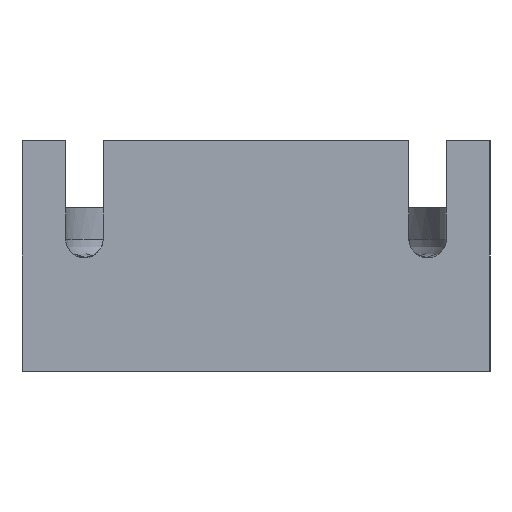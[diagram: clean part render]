
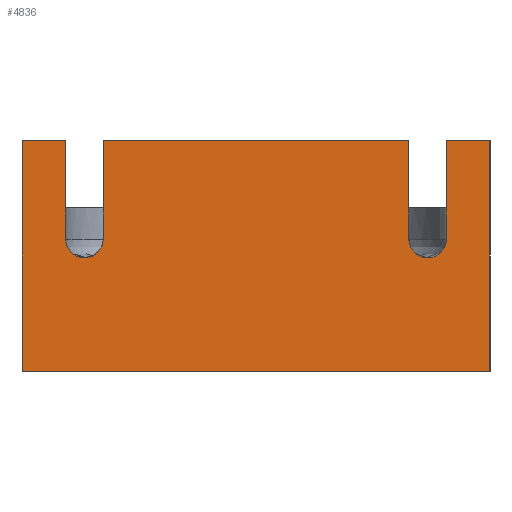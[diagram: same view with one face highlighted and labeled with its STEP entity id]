
A CAD part, left-side view. The second image highlights one B-rep face of the part: STEP entity #4836.
In plain terms, the highlighted planar face has unit normal (-1, 0, 0).
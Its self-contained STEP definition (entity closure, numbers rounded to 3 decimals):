
#253=PLANE('',#5168);
#530=FACE_OUTER_BOUND('',#812,.T.);
#812=EDGE_LOOP('',(#4475,#4476,#4477,#4478,#4479,#4480,#4481,#4482,#4483,
#4484,#4485,#4486));
#814=B_SPLINE_CURVE_WITH_KNOTS('',3,(#6275,#6276,#6277,#6278,#6279,#6280,
#6281,#6282,#6283,#6284,#6285,#6286,#6287,#6288,#6289,#6290,#6291,#6292,
#6293,#6294,#6295,#6296,#6297,#6298,#6299,#6300,#6301,#6302),
 .UNSPECIFIED.,.F.,.F.,(4,3,3,3,3,3,3,3,3,4),(-0.945,-0.883,
-0.82,-0.703,-0.586,-0.469,
-0.352,-0.234,-0.117,0.),
 .UNSPECIFIED.);
#1003=LINE('',#6310,#1419);
#1006=LINE('',#6316,#1422);
#1012=LINE('',#6329,#1428);
#1018=LINE('',#6356,#1434);
#1019=LINE('',#6359,#1435);
#1026=LINE('',#6372,#1442);
#1406=LINE('',#10257,#1822);
#1410=LINE('',#10266,#1826);
#1413=LINE('',#10271,#1829);
#1414=LINE('',#10273,#1830);
#1419=VECTOR('',#5183,10.);
#1422=VECTOR('',#5188,10.);
#1428=VECTOR('',#5196,10.);
#1434=VECTOR('',#5208,10.);
#1435=VECTOR('',#5211,10.);
#1442=VECTOR('',#5220,10.);
#1822=VECTOR('',#6206,10.);
#1826=VECTOR('',#6212,10.);
#1829=VECTOR('',#6219,10.);
#1830=VECTOR('',#6222,10.);
#1832=CIRCLE('',#4858,3.);
#1919=VERTEX_POINT('',#6272);
#1920=VERTEX_POINT('',#6274);
#1923=VERTEX_POINT('',#6308);
#1925=VERTEX_POINT('',#6315);
#1930=VERTEX_POINT('',#6326);
#1931=VERTEX_POINT('',#6328);
#1933=VERTEX_POINT('',#6346);
#1936=VERTEX_POINT('',#6354);
#1937=VERTEX_POINT('',#6358);
#2353=VERTEX_POINT('',#10255);
#2354=VERTEX_POINT('',#10259);
#2357=VERTEX_POINT('',#10264);
#2360=EDGE_CURVE('',#1920,#1919,#814,.T.);
#2364=EDGE_CURVE('',#1919,#1923,#1003,.T.);
#2367=EDGE_CURVE('',#1925,#1920,#1006,.T.);
#2373=EDGE_CURVE('',#1931,#1930,#1012,.T.);
#2377=EDGE_CURVE('',#1930,#1933,#1832,.T.);
#2381=EDGE_CURVE('',#1933,#1936,#1018,.T.);
#2382=EDGE_CURVE('',#1931,#1937,#1019,.T.);
#2389=EDGE_CURVE('',#1925,#1936,#1026,.T.);
#3060=EDGE_CURVE('',#2353,#1923,#1406,.T.);
#3064=EDGE_CURVE('',#2357,#2354,#1410,.T.);
#3067=EDGE_CURVE('',#1937,#2357,#1413,.T.);
#3068=EDGE_CURVE('',#2353,#2354,#1414,.T.);
#4475=ORIENTED_EDGE('',*,*,#2364,.T.);
#4476=ORIENTED_EDGE('',*,*,#3060,.F.);
#4477=ORIENTED_EDGE('',*,*,#3068,.T.);
#4478=ORIENTED_EDGE('',*,*,#3064,.F.);
#4479=ORIENTED_EDGE('',*,*,#3067,.F.);
#4480=ORIENTED_EDGE('',*,*,#2382,.F.);
#4481=ORIENTED_EDGE('',*,*,#2373,.T.);
#4482=ORIENTED_EDGE('',*,*,#2377,.T.);
#4483=ORIENTED_EDGE('',*,*,#2381,.T.);
#4484=ORIENTED_EDGE('',*,*,#2389,.F.);
#4485=ORIENTED_EDGE('',*,*,#2367,.T.);
#4486=ORIENTED_EDGE('',*,*,#2360,.T.);
#4836=ADVANCED_FACE('',(#530),#253,.F.);
#4858=AXIS2_PLACEMENT_3D('',#6348,#5201,#5202);
#5168=AXIS2_PLACEMENT_3D('',#10272,#6220,#6221);
#5183=DIRECTION('',(0.,0.,1.));
#5188=DIRECTION('',(0.,0.,-1.));
#5196=DIRECTION('',(0.,0.,-1.));
#5201=DIRECTION('center_axis',(1.,0.,0.));
#5202=DIRECTION('ref_axis',(0.,1.,0.));
#5208=DIRECTION('',(0.,0.,1.));
#5211=DIRECTION('',(0.,-1.,0.));
#5220=DIRECTION('',(0.,-1.,0.));
#6206=DIRECTION('',(0.,-1.,0.));
#6212=DIRECTION('',(0.,1.,0.));
#6219=DIRECTION('',(0.,0.,-1.));
#6220=DIRECTION('center_axis',(1.,0.,0.));
#6221=DIRECTION('ref_axis',(0.,0.,-1.));
#6222=DIRECTION('',(0.,0.,-1.));
#6272=CARTESIAN_POINT('',(0.,68.,21.2));
#6274=CARTESIAN_POINT('',(0.,62.,21.2));
#6275=CARTESIAN_POINT('Ctrl Pts',(0.,62.,21.2));
#6276=CARTESIAN_POINT('Ctrl Pts',(0.,62.,20.992));
#6277=CARTESIAN_POINT('Ctrl Pts',(0.,62.022,
20.785));
#6278=CARTESIAN_POINT('Ctrl Pts',(0.,62.065,
20.581));
#6279=CARTESIAN_POINT('Ctrl Pts',(0.,62.107,
20.377));
#6280=CARTESIAN_POINT('Ctrl Pts',(0.,62.171,
20.179));
#6281=CARTESIAN_POINT('Ctrl Pts',(0.,62.255,
19.989));
#6282=CARTESIAN_POINT('Ctrl Pts',(0.,62.413,
19.631));
#6283=CARTESIAN_POINT('Ctrl Pts',(0.,62.639,
19.308));
#6284=CARTESIAN_POINT('Ctrl Pts',(0.,62.921,
19.037));
#6285=CARTESIAN_POINT('Ctrl Pts',(0.,63.202,
18.767));
#6286=CARTESIAN_POINT('Ctrl Pts',(0.,63.534,
18.553));
#6287=CARTESIAN_POINT('Ctrl Pts',(0.,63.898,
18.41));
#6288=CARTESIAN_POINT('Ctrl Pts',(0.,64.261,
18.266));
#6289=CARTESIAN_POINT('Ctrl Pts',(0.,64.649,
18.195));
#6290=CARTESIAN_POINT('Ctrl Pts',(0.,65.039,
18.2));
#6291=CARTESIAN_POINT('Ctrl Pts',(0.,65.43,
18.205));
#6292=CARTESIAN_POINT('Ctrl Pts',(0.,65.816,
18.287));
#6293=CARTESIAN_POINT('Ctrl Pts',(0.,66.175,
18.44));
#6294=CARTESIAN_POINT('Ctrl Pts',(0.,66.535,
18.593));
#6295=CARTESIAN_POINT('Ctrl Pts',(0.,66.861,
18.815));
#6296=CARTESIAN_POINT('Ctrl Pts',(0.,67.135,
19.093));
#6297=CARTESIAN_POINT('Ctrl Pts',(0.,67.41,
19.371));
#6298=CARTESIAN_POINT('Ctrl Pts',(0.,67.627,
19.7));
#6299=CARTESIAN_POINT('Ctrl Pts',(0.,67.775,
20.061));
#6300=CARTESIAN_POINT('Ctrl Pts',(0.,67.924,
20.422));
#6301=CARTESIAN_POINT('Ctrl Pts',(0.,68.,20.809));
#6302=CARTESIAN_POINT('Ctrl Pts',(0.,68.,21.2));
#6308=CARTESIAN_POINT('',(0.,68.,37.));
#6310=CARTESIAN_POINT('',(0.,68.,27.75));
#6315=CARTESIAN_POINT('',(0.,62.,37.));
#6316=CARTESIAN_POINT('',(0.,62.,19.85));
#6326=CARTESIAN_POINT('',(0.,7.,21.2));
#6328=CARTESIAN_POINT('',(0.,7.,37.));
#6329=CARTESIAN_POINT('',(0.,7.,19.85));
#6346=CARTESIAN_POINT('',(0.,13.,21.2));
#6348=CARTESIAN_POINT('Origin',(0.,10.,21.2));
#6354=CARTESIAN_POINT('',(0.,13.,37.));
#6356=CARTESIAN_POINT('',(0.,13.,27.75));
#6358=CARTESIAN_POINT('',(0.,0.,37.));
#6359=CARTESIAN_POINT('',(0.,37.5,37.));
#6372=CARTESIAN_POINT('',(0.,37.5,37.));
#10255=CARTESIAN_POINT('',(0.,75.,37.));
#10257=CARTESIAN_POINT('',(0.,37.5,37.));
#10259=CARTESIAN_POINT('',(0.,75.,0.));
#10264=CARTESIAN_POINT('',(0.,0.,0.));
#10266=CARTESIAN_POINT('',(0.,37.5,0.));
#10271=CARTESIAN_POINT('',(0.,0.,18.5));
#10272=CARTESIAN_POINT('Origin',(0.,37.5,18.5));
#10273=CARTESIAN_POINT('',(0.,75.,18.5));
